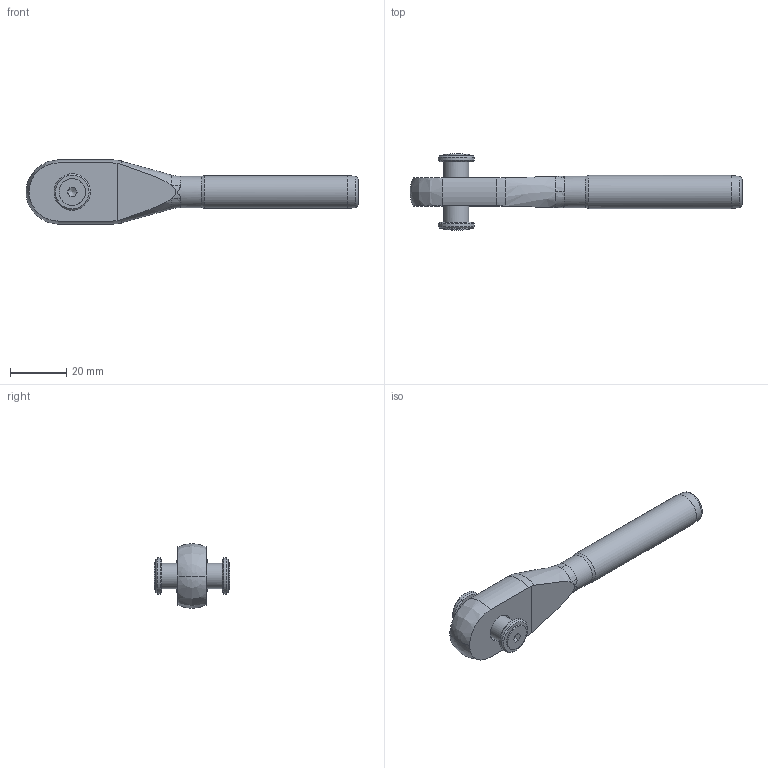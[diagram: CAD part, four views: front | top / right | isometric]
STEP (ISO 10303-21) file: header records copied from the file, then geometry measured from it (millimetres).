
FILE_DESCRIPTION(/* description */ (''),/* implementation_level */ '2;1');
FILE_NAME(/* name */ 'MCC 06_42CrMo4',/* time_stamp */ '2023-05-23T15:40:56+02:00',/* author */ (''),/* organization */ (''),/* preprocessor_version */ 'ST-DEVELOPER v16.5',/* originating_system */ 'Rhino 7.22',/* authorisation */ '');
FILE_SCHEMA (('CONFIG_CONTROL_DESIGN'));
Length unit declared in the file: millimetre
Products named in the file (1): Document
Bounding box: 118.5 x 27.11 x 23 mm (x, y, z)
Volume: 18203.4 mm3; surface area: 7811.9 mm2
Topology: 6 solids, 6 shells, 74 faces, 203 edges, 135 vertices
Faces by surface type: bspline 31, plane 27, cylinder 16
Full cylindrical faces by diameter (mm): 4.134 x2, 5 x2, 5.5 x2, 9 x1, 9.43 x2, 10 x1, 11.2 x1, 11.8 x1, 13 x2
Entity records: 3210 total; most frequent: CARTESIAN_POINT 1955, ORIENTED_EDGE 386, EDGE_CURVE 193, VERTEX_POINT 135, EDGE_LOOP 84, ADVANCED_FACE 74, FACE_OUTER_BOUND 74, B_SPLINE_CURVE_WITH_KNOTS 64
